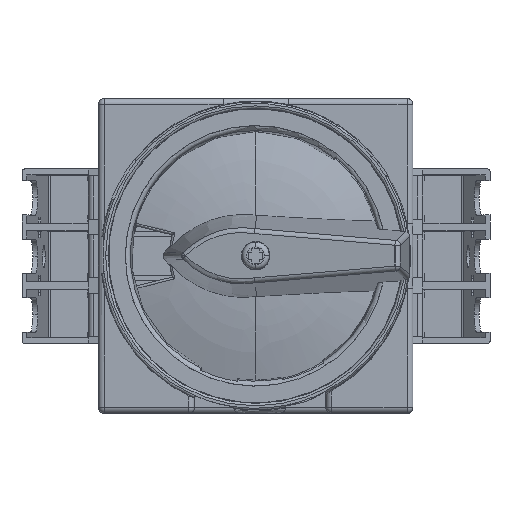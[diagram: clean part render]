
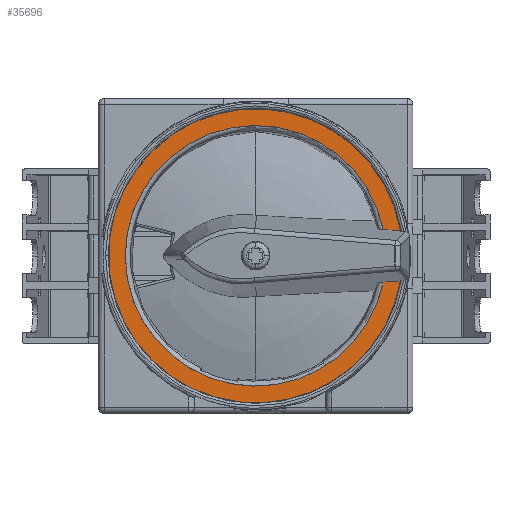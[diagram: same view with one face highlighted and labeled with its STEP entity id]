
A CAD part, top view. The second image highlights one B-rep face of the part: STEP entity #35696.
In plain terms, the highlighted planar face has unit normal (0, 0, 1).
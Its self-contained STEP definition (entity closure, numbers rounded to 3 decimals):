
#9705 = CARTESIAN_POINT ( 'NONE',  ( -71.146, 4.779, 156.248 ) ) ;
#13057 = ORIENTED_EDGE ( 'NONE', *, *, #83875, .T. ) ;
#20391 = CARTESIAN_POINT ( 'NONE',  ( -71.146, -28.574, 156.248 ) ) ;
#22821 = CIRCLE ( 'NONE', #68575, 29.9 ) ;
#23803 = CARTESIAN_POINT ( 'NONE',  ( -15.483, -3.982, 156.248 ) ) ;
#27904 = CIRCLE ( 'NONE', #199513, 26.5 ) ;
#32659 = CIRCLE ( 'NONE', #66608, 29.9 ) ;
#35696 = ADVANCED_FACE ( 'NONE', ( #172296 ), #154764, .T. ) ;
#38574 = DIRECTION ( 'NONE',  ( 0., 1., 0. ) ) ;
#40608 = VECTOR ( 'NONE', #38574, 1000. ) ;
#41552 = VECTOR ( 'NONE', #201815, 1000. ) ;
#43868 = CARTESIAN_POINT ( 'NONE',  ( -15.483, 6.635, 156.248 ) ) ;
#44252 = VERTEX_POINT ( 'NONE', #204748 ) ;
#51297 = CARTESIAN_POINT ( 'NONE',  ( -41.401, -5.627, 156.248 ) ) ;
#53486 = EDGE_CURVE ( 'NONE', #44252, #71458, #22821, .T. ) ;
#54618 = CARTESIAN_POINT ( 'NONE',  ( -41.446, -28.574, 156.248 ) ) ;
#56150 = EDGE_CURVE ( 'NONE', #44252, #212788, #67763, .T. ) ;
#56953 = EDGE_CURVE ( 'NONE', #71458, #86701, #85108, .T. ) ;
#66608 = AXIS2_PLACEMENT_3D ( 'NONE', #201802, #185652, #80558 ) ;
#66824 = ORIENTED_EDGE ( 'NONE', *, *, #56150, .T. ) ;
#67763 = LINE ( 'NONE', #51297, #41552 ) ;
#68575 = AXIS2_PLACEMENT_3D ( 'NONE', #183807, #86735, #186709 ) ;
#71439 = CARTESIAN_POINT ( 'NONE',  ( -11.982, 6.412, 156.248 ) ) ;
#71458 = VERTEX_POINT ( 'NONE', #185931 ) ;
#80558 = DIRECTION ( 'NONE',  ( -1., 0., 0. ) ) ;
#81419 = VECTOR ( 'NONE', #92090, 1000. ) ;
#83875 = EDGE_CURVE ( 'NONE', #110153, #148347, #131137, .T. ) ;
#85108 = LINE ( 'NONE', #20391, #40608 ) ;
#85360 = DIRECTION ( 'NONE',  ( 0., 0., -1. ) ) ;
#86701 = VERTEX_POINT ( 'NONE', #9705 ) ;
#86735 = DIRECTION ( 'NONE',  ( 0., 0., -1. ) ) ;
#89642 = ORIENTED_EDGE ( 'NONE', *, *, #211084, .F. ) ;
#92090 = DIRECTION ( 'NONE',  ( 0.998, -0.063, 0. ) ) ;
#104360 = DIRECTION ( 'NONE',  ( 1., 0., 0. ) ) ;
#110153 = VERTEX_POINT ( 'NONE', #43868 ) ;
#112095 = EDGE_LOOP ( 'NONE', ( #172886, #155266, #66824, #195818, #13057, #89642 ) ) ;
#121893 = DIRECTION ( 'NONE',  ( 0., 0., 1. ) ) ;
#122603 = CARTESIAN_POINT ( 'NONE',  ( -41.446, 1.326, 156.248 ) ) ;
#131137 = LINE ( 'NONE', #210349, #81419 ) ;
#148347 = VERTEX_POINT ( 'NONE', #71439 ) ;
#154764 = PLANE ( 'NONE',  #194641 ) ;
#155266 = ORIENTED_EDGE ( 'NONE', *, *, #53486, .F. ) ;
#172296 = FACE_OUTER_BOUND ( 'NONE', #112095, .T. ) ;
#172886 = ORIENTED_EDGE ( 'NONE', *, *, #56953, .F. ) ;
#174825 = EDGE_CURVE ( 'NONE', #212788, #110153, #27904, .T. ) ;
#183807 = CARTESIAN_POINT ( 'NONE',  ( -41.446, 1.326, 156.248 ) ) ;
#185652 = DIRECTION ( 'NONE',  ( 0., 0., -1. ) ) ;
#185931 = CARTESIAN_POINT ( 'NONE',  ( -71.146, -2.126, 156.248 ) ) ;
#186709 = DIRECTION ( 'NONE',  ( -1., 0., 0. ) ) ;
#194641 = AXIS2_PLACEMENT_3D ( 'NONE', #54618, #121893, #104360 ) ;
#195818 = ORIENTED_EDGE ( 'NONE', *, *, #174825, .T. ) ;
#199513 = AXIS2_PLACEMENT_3D ( 'NONE', #122603, #85360, #205091 ) ;
#201802 = CARTESIAN_POINT ( 'NONE',  ( -41.446, 1.326, 156.248 ) ) ;
#201815 = DIRECTION ( 'NONE',  ( -0.998, -0.063, 0. ) ) ;
#204748 = CARTESIAN_POINT ( 'NONE',  ( -11.982, -3.759, 156.248 ) ) ;
#205091 = DIRECTION ( 'NONE',  ( 1., 0., 0. ) ) ;
#210349 = CARTESIAN_POINT ( 'NONE',  ( -9.901, 6.28, 156.248 ) ) ;
#211084 = EDGE_CURVE ( 'NONE', #86701, #148347, #32659, .T. ) ;
#212788 = VERTEX_POINT ( 'NONE', #23803 ) ;
